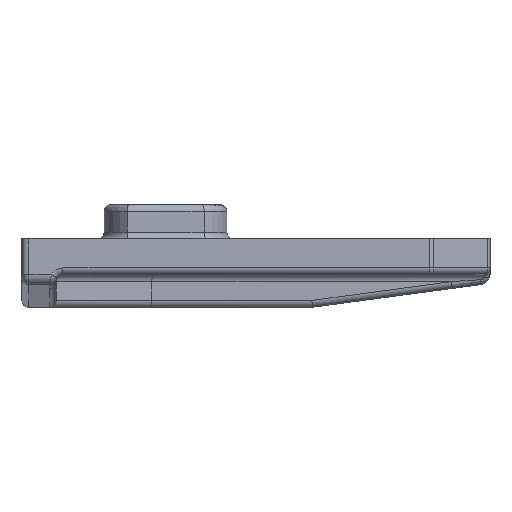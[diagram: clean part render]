
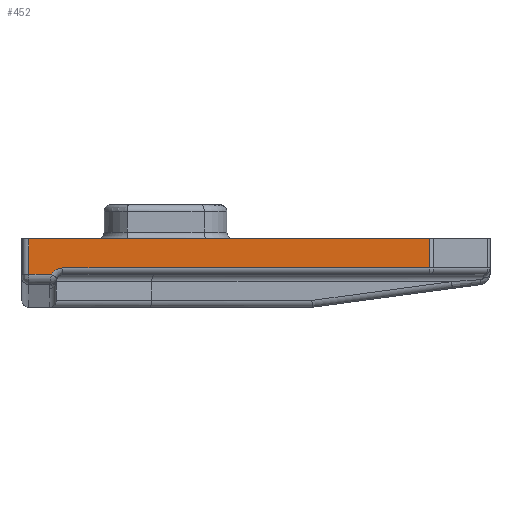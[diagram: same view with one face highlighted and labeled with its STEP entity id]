
A CAD part, left-side view. The second image highlights one B-rep face of the part: STEP entity #452.
In plain terms, the highlighted planar face has unit normal (-1, 0, 0).
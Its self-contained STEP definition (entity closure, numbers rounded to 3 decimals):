
#452=ADVANCED_FACE('',(#992),#993,.F.);
#992=FACE_OUTER_BOUND('',#2150,.T.);
#993=PLANE('',#2151);
#2150=EDGE_LOOP('',(#3536,#3537,#3538,#3539,#3540,#3541));
#2151=AXIS2_PLACEMENT_3D('',#3542,#3543,#3544);
#3536=ORIENTED_EDGE('',*,*,#3941,.T.);
#3537=ORIENTED_EDGE('',*,*,#4252,.F.);
#3538=ORIENTED_EDGE('',*,*,#4319,.T.);
#3539=ORIENTED_EDGE('',*,*,#4289,.T.);
#3540=ORIENTED_EDGE('',*,*,#4213,.F.);
#3541=ORIENTED_EDGE('',*,*,#4275,.F.);
#3542=CARTESIAN_POINT('',(-137.0,0.,-20.));
#3543=DIRECTION('',(1.0,0.0,-0.0));
#3544=DIRECTION('',(0.0,0.0,1.0));
#3941=EDGE_CURVE('',#4606,#4610,#4612,.T.);
#4213=EDGE_CURVE('',#5015,#4370,#5017,.T.);
#4252=EDGE_CURVE('',#4860,#4610,#5069,.T.);
#4275=EDGE_CURVE('',#4606,#5015,#5097,.T.);
#4289=EDGE_CURVE('',#5113,#4370,#5114,.T.);
#4319=EDGE_CURVE('',#4860,#5113,#5148,.T.);
#4370=VERTEX_POINT('',#5200);
#4606=VERTEX_POINT('',#5628);
#4610=VERTEX_POINT('',#5633);
#4612=LINE('',#5635,#5636);
#4860=VERTEX_POINT('',#6005);
#5015=VERTEX_POINT('',#6324);
#5017=LINE('',#6326,#6327);
#5069=LINE('',#6439,#6440);
#5097=LINE('',#6525,#6526);
#5113=VERTEX_POINT('',#6553);
#5114=LINE('',#6554,#6555);
#5148=CIRCLE('',#6596,4.0);
#5200=CARTESIAN_POINT('',(-137.0,-119.172,-8.5));
#5628=CARTESIAN_POINT('',(-137.0,-2.,0.));
#5633=CARTESIAN_POINT('',(-137.0,-2.,-10.377));
#5635=CARTESIAN_POINT('',(-137.0,-2.,-20.));
#5636=VECTOR('',#6807,1.0);
#6005=CARTESIAN_POINT('',(-137.,-8.61,-10.377));
#6324=CARTESIAN_POINT('',(-137.0,-119.172,0.));
#6326=CARTESIAN_POINT('',(-137.0,-119.172,-20.));
#6327=VECTOR('',#7095,1.0);
#6439=CARTESIAN_POINT('',(-137.0,0.,-10.377));
#6440=VECTOR('',#7129,1.0);
#6525=CARTESIAN_POINT('',(-137.0,0.,0.));
#6526=VECTOR('',#7155,1.0);
#6553=CARTESIAN_POINT('',(-137.0,-12.,-8.5));
#6554=CARTESIAN_POINT('',(-137.0,-5.,-8.5));
#6555=VECTOR('',#7167,1.0);
#6596=AXIS2_PLACEMENT_3D('',#7190,#7191,#7192);
#6807=DIRECTION('',(0.0,0.0,-1.0));
#7095=DIRECTION('',(0.0,0.0,-1.0));
#7129=DIRECTION('',(0.0,1.0,0.0));
#7155=DIRECTION('',(0.0,-1.0,0.0));
#7167=DIRECTION('',(0.0,-1.0,0.0));
#7190=CARTESIAN_POINT('',(-137.0,-12.,-12.5));
#7191=DIRECTION('',(1.0,0.0,-0.0));
#7192=DIRECTION('',(0.0,0.0,1.0));
